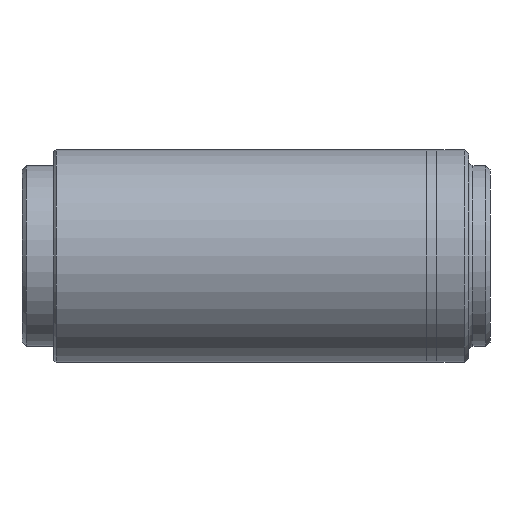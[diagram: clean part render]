
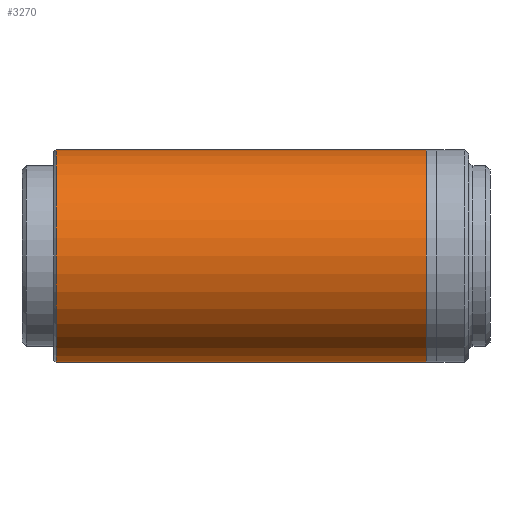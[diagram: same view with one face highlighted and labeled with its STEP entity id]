
A CAD part, left-side view. The second image highlights one B-rep face of the part: STEP entity #3270.
In plain terms, the highlighted cylindrical face has radius 5 mm (diameter 10 mm), a partial arc.
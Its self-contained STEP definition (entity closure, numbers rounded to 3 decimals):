
#94 = DIRECTION ( 'NONE',  ( 0., 1., 0. ) ) ;
#225 = CARTESIAN_POINT ( 'NONE',  ( 0., 9.4, 0. ) ) ;
#280 = CARTESIAN_POINT ( 'NONE',  ( 0., -8., 0. ) ) ;
#298 = VERTEX_POINT ( 'NONE', #3663 ) ;
#462 = CARTESIAN_POINT ( 'NONE',  ( 0., 9.4, 5. ) ) ;
#645 = ORIENTED_EDGE ( 'NONE', *, *, #3560, .T. ) ;
#828 = AXIS2_PLACEMENT_3D ( 'NONE', #2929, #4622, #4571 ) ;
#849 = CARTESIAN_POINT ( 'NONE',  ( 0., 11., 5. ) ) ;
#1175 = DIRECTION ( 'NONE',  ( 0., 1., 0. ) ) ;
#1270 = CYLINDRICAL_SURFACE ( 'NONE', #828, 5. ) ;
#1318 = VERTEX_POINT ( 'NONE', #4645 ) ;
#1383 = CARTESIAN_POINT ( 'NONE',  ( 0., 9.4, -5. ) ) ;
#1625 = ORIENTED_EDGE ( 'NONE', *, *, #4682, .T. ) ;
#1989 = VERTEX_POINT ( 'NONE', #1383 ) ;
#2046 = EDGE_CURVE ( 'NONE', #1989, #4127, #3439, .T. ) ;
#2144 = CIRCLE ( 'NONE', #3200, 5. ) ;
#2408 = EDGE_LOOP ( 'NONE', ( #4669, #1625, #645, #3103 ) ) ;
#2427 = DIRECTION ( 'NONE',  ( 0., 0., 1. ) ) ;
#2495 = FACE_OUTER_BOUND ( 'NONE', #2408, .T. ) ;
#2614 = DIRECTION ( 'NONE',  ( 0., 1., 0. ) ) ;
#2929 = CARTESIAN_POINT ( 'NONE',  ( 0., 11., 0. ) ) ;
#3025 = LINE ( 'NONE', #849, #5240 ) ;
#3103 = ORIENTED_EDGE ( 'NONE', *, *, #2046, .F. ) ;
#3168 = AXIS2_PLACEMENT_3D ( 'NONE', #225, #4031, #3548 ) ;
#3200 = AXIS2_PLACEMENT_3D ( 'NONE', #280, #1175, #2427 ) ;
#3270 = ADVANCED_FACE ( 'NONE', ( #2495 ), #1270, .T. ) ;
#3439 = CIRCLE ( 'NONE', #3168, 5. ) ;
#3469 = VECTOR ( 'NONE', #94, 1000. ) ;
#3474 = LINE ( 'NONE', #3894, #3469 ) ;
#3548 = DIRECTION ( 'NONE',  ( 0., 0., 1. ) ) ;
#3560 = EDGE_CURVE ( 'NONE', #298, #4127, #3025, .T. ) ;
#3663 = CARTESIAN_POINT ( 'NONE',  ( 0., -8., 5. ) ) ;
#3894 = CARTESIAN_POINT ( 'NONE',  ( 0., 11., -5. ) ) ;
#3972 = EDGE_CURVE ( 'NONE', #1318, #1989, #3474, .T. ) ;
#4031 = DIRECTION ( 'NONE',  ( 0., 1., 0. ) ) ;
#4127 = VERTEX_POINT ( 'NONE', #462 ) ;
#4571 = DIRECTION ( 'NONE',  ( 0., 0., 1. ) ) ;
#4622 = DIRECTION ( 'NONE',  ( 0., 1., 0. ) ) ;
#4645 = CARTESIAN_POINT ( 'NONE',  ( 0., -8., -5. ) ) ;
#4669 = ORIENTED_EDGE ( 'NONE', *, *, #3972, .F. ) ;
#4682 = EDGE_CURVE ( 'NONE', #1318, #298, #2144, .T. ) ;
#5240 = VECTOR ( 'NONE', #2614, 1000. ) ;
